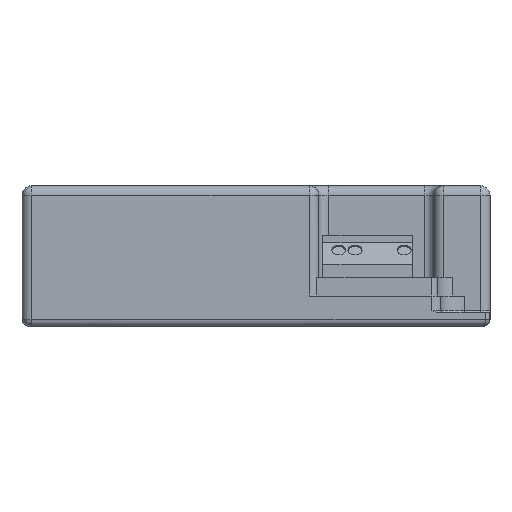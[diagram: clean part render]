
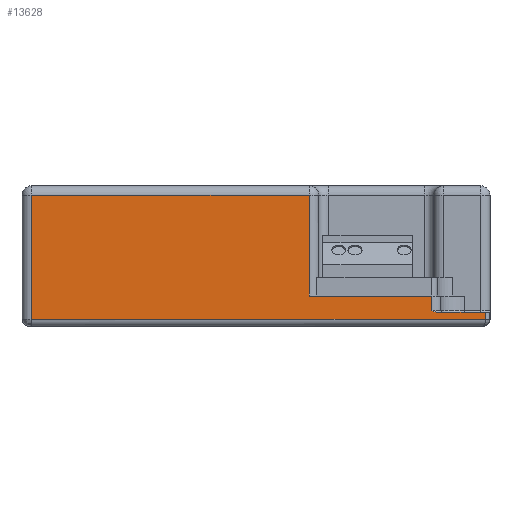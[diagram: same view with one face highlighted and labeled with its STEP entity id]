
A CAD part, front view. The second image highlights one B-rep face of the part: STEP entity #13628.
In plain terms, the highlighted planar face has unit normal (0, -1, 0).
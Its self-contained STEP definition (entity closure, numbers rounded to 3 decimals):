
#453=DIRECTION('',(-1.,0.,0.));
#454=VECTOR('',#453,10.173);
#455=CARTESIAN_POINT('',(49.,-70.,3.));
#456=LINE('',#455,#454);
#884=DIRECTION('',(-1.,0.,0.));
#885=VECTOR('',#884,26.1);
#886=CARTESIAN_POINT('',(37.5,-70.,6.45));
#887=LINE('',#886,#885);
#4057=CARTESIAN_POINT('',(49.,-70.,1.5));
#4062=DIRECTION('',(1.,0.,0.));
#4063=VECTOR('',#4062,59.4);
#4064=CARTESIAN_POINT('',(-48.,-70.,28.));
#4065=LINE('',#4064,#4063);
#4069=DIRECTION('',(0.,0.,1.));
#4070=VECTOR('',#4069,21.55);
#4071=CARTESIAN_POINT('',(11.4,-70.,6.45));
#4072=LINE('',#4071,#4070);
#4076=DIRECTION('',(0.,0.,1.));
#4077=VECTOR('',#4076,3.05);
#4078=CARTESIAN_POINT('',(37.5,-70.,3.4));
#4079=LINE('',#4078,#4077);
#4083=DIRECTION('',(0.,0.,-1.));
#4084=VECTOR('',#4083,1.5);
#4085=CARTESIAN_POINT('',(49.,-70.,3.));
#4086=LINE('',#4085,#4084);
#4090=DIRECTION('',(-1.,0.,0.));
#4091=VECTOR('',#4090,97.);
#4092=CARTESIAN_POINT('',(49.,-70.,1.5));
#4093=LINE('',#4092,#4091);
#4097=DIRECTION('',(0.,0.,-1.));
#4098=VECTOR('',#4097,26.5);
#4099=CARTESIAN_POINT('',(-48.,-70.,28.));
#4100=LINE('',#4099,#4098);
#7269=CARTESIAN_POINT('',(38.827,-70.,3.));
#7270=CARTESIAN_POINT('',(38.751,-70.,3.));
#7271=CARTESIAN_POINT('',(38.595,-70.,3.013));
#7272=CARTESIAN_POINT('',(38.343,-70.,3.068));
#7273=CARTESIAN_POINT('',(38.077,-70.,3.154));
#7274=CARTESIAN_POINT('',(37.797,-70.,3.267));
#7275=CARTESIAN_POINT('',(37.601,-70.,3.355));
#7276=CARTESIAN_POINT('',(37.5,-70.,3.4));
#10415=CARTESIAN_POINT('',(49.,-70.,3.));
#10417=VERTEX_POINT('',#10415);
#10420=VERTEX_POINT('',#4057);
#10568=CARTESIAN_POINT('',(11.4,-70.,6.45));
#10569=CARTESIAN_POINT('',(11.4,-70.,28.));
#10570=VERTEX_POINT('',#10568);
#10571=VERTEX_POINT('',#10569);
#10574=CARTESIAN_POINT('',(-48.,-70.,1.5));
#10576=VERTEX_POINT('',#10574);
#10622=VERTEX_POINT('',#7269);
#10623=VERTEX_POINT('',#7276);
#10654=CARTESIAN_POINT('',(37.5,-70.,6.45));
#10656=VERTEX_POINT('',#10654);
#11296=CARTESIAN_POINT('',(-48.,-70.,28.));
#11297=VERTEX_POINT('',#11296);
#13606=CARTESIAN_POINT('',(-50.,-70.,0.));
#13607=DIRECTION('',(0.,-1.,0.));
#13608=DIRECTION('',(1.,0.,0.));
#13609=AXIS2_PLACEMENT_3D('',#13606,#13607,#13608);
#13610=PLANE('',#13609);
#13612=ORIENTED_EDGE('',*,*,#13611,.T.);
#13614=ORIENTED_EDGE('',*,*,#13613,.F.);
#13615=ORIENTED_EDGE('',*,*,#11893,.F.);
#13617=ORIENTED_EDGE('',*,*,#13616,.F.);
#13619=ORIENTED_EDGE('',*,*,#13618,.F.);
#13620=ORIENTED_EDGE('',*,*,#11599,.F.);
#13621=ORIENTED_EDGE('',*,*,#13599,.T.);
#13623=ORIENTED_EDGE('',*,*,#13622,.T.);
#13625=ORIENTED_EDGE('',*,*,#13624,.F.);
#13626=EDGE_LOOP('',(#13612,#13614,#13615,#13617,#13619,#13620,#13621,#13623,
#13625));
#13627=FACE_OUTER_BOUND('',#13626,.F.);
#7277=B_SPLINE_CURVE_WITH_KNOTS('',3,(#7269,#7270,#7271,#7272,#7273,#7274,#7275,
#7276),.UNSPECIFIED.,.F.,.F.,(4,1,1,1,1,4),(0.,0.2,0.4,0.6,0.8,1.),
.UNSPECIFIED.);
#11599=EDGE_CURVE('',#10417,#10622,#456,.T.);
#11893=EDGE_CURVE('',#10656,#10570,#887,.T.);
#13599=EDGE_CURVE('',#10417,#10420,#4086,.T.);
#13611=EDGE_CURVE('',#11297,#10571,#4065,.T.);
#13613=EDGE_CURVE('',#10570,#10571,#4072,.T.);
#13616=EDGE_CURVE('',#10623,#10656,#4079,.T.);
#13618=EDGE_CURVE('',#10622,#10623,#7277,.T.);
#13622=EDGE_CURVE('',#10420,#10576,#4093,.T.);
#13624=EDGE_CURVE('',#11297,#10576,#4100,.T.);
#13628=ADVANCED_FACE('',(#13627),#13610,.T.);
